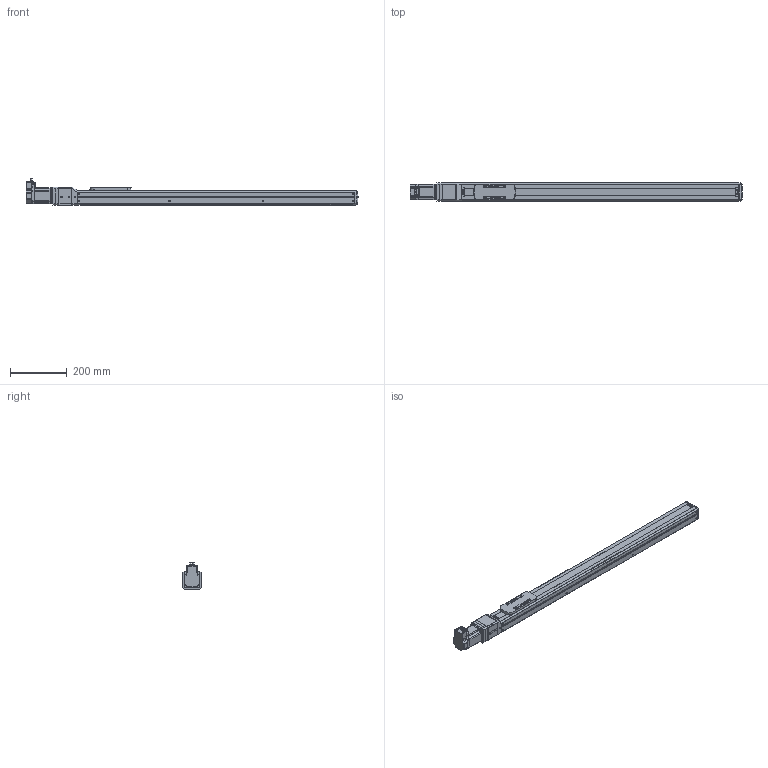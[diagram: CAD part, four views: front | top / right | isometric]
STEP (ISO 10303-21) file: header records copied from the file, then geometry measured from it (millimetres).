
FILE_DESCRIPTION(('FreeCAD Model'),'2;1');
FILE_NAME('Open CASCADE Shape Model','2023-08-02T11:01:14',('Author'),( ''),'Open CASCADE STEP processor 7.5','FreeCAD','Unknown');
FILE_SCHEMA(('AUTOMOTIVE_DESIGN { 1 0 10303 214 1 1 1 1 }'));
Length unit declared in the file: millimetre
Products named in the file (19): RSA1211; 1; 6; 5; 12; 2; 3; 9; 4; 11; 7; 13; 10; 8; Shapes; KSF6-20-0750-0-A0(0); KSF6---(Cover); KSF6-10-0750---(slider); KSF6-20-0750-A0 (0750A0No0)---(body)
Assembly tree (18 placements, depth 3):
  RSA1211
    1
    6
    5
    12
    2
    3
    9
    4
    11
    7
    13
    10
    8
    Shapes
    KSF6-20-0750-0-A0(0)
      KSF6---(Cover)
      KSF6-10-0750---(slider)
      KSF6-20-0750-A0 (0750A0No0)---(body)
Bounding box: 1173 x 66.4 x 93.17 mm (x, y, z)
Volume: 3658094.3 mm3; surface area: 393537.6 mm2
Topology: 17 solids, 17 shells, 1587 faces, 4238 edges, 2782 vertices
Faces by surface type: plane 1139, cylinder 310, cone 75, bspline 32, torus 27, revolution 4
Full cylindrical faces by diameter (mm): 2.113 x8, 2.6 x4, 3 x2, 3.242 x5, 4.134 x4, 4.5 x2, 5 x1, 5.5 x16, 6.5 x4, 9 x1, 9.5 x10, 12 x1, 15.5 x1, 17 x1, 44 x1, 50 x1
Entity records: 111792 total; most frequent: CARTESIAN_POINT 26340, DIRECTION 15891, LINE 10804, VECTOR 10804, ORIENTED_EDGE 8436, PCURVE 8436, DEFINITIONAL_REPRESENTATION 8436, EDGE_CURVE 4218
